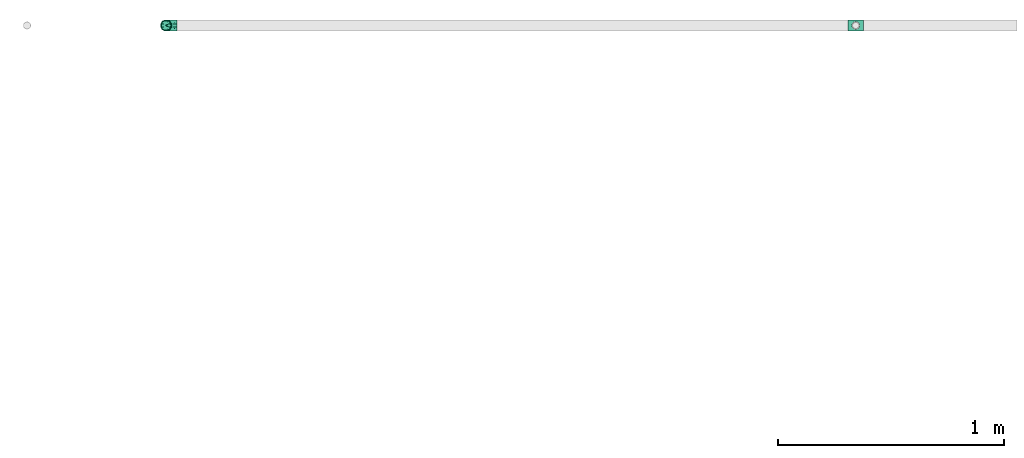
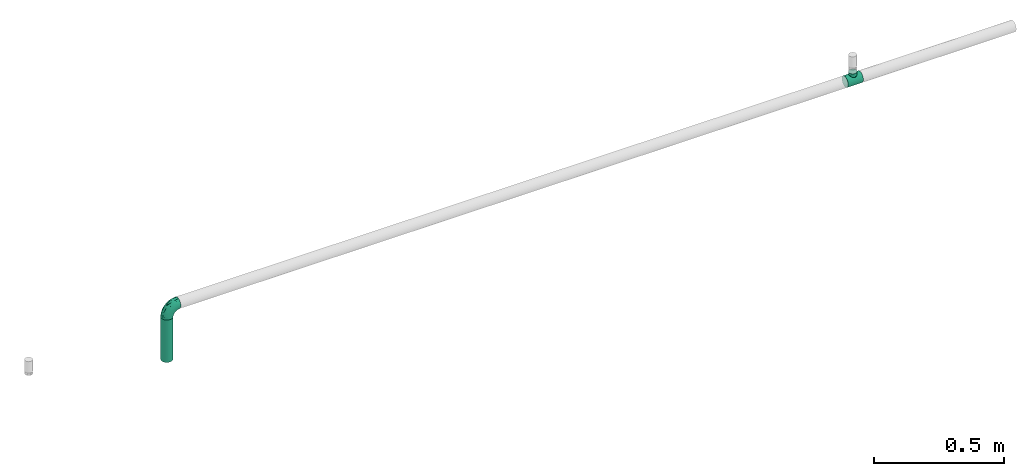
# One storey, part 3 of 14: 2 flow fittings, 1 flow segment.
"""IFC2X3 building model written with IfcOpenShell, lengths in millimetres."""

from ifc_helpers import new_model, entity, si_unit, converted_unit, derived_unit, direction, frame, origin_with_axes, origin_2d_with_axis, place, context, subcontext, project, spatial, hollow_circle, extrude, open_shell, surface_model, source, transform, mapped, type_object, element, save


model = new_model("IFC2X3")

# Units and contexts
model_context = context("Model", 3, precision=0.01, world=frame((0.0, 4.29681676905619e-09, 0.0)), true_north=direction((4.01073788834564e-13, 1.0)))
plan_context = context("Plan", 3, precision=0.01, world=frame((0.0, 4.29681676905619e-09, 0.0)), true_north=direction((4.01073788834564e-13, 1.0)))
body_context = subcontext(model_context, "Body", "Model", "MODEL_VIEW")
ifc_project = project(units=[converted_unit("PLANEANGLEUNIT", "DEGREE", entity("IfcPositiveLengthMeasure", 0.0174532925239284), si_unit("PLANEANGLEUNIT", "RADIAN"), dimensions=[0, 0, 0, 0, 0, 0, 0]), si_unit("AREAUNIT", "SQUARE_METRE"), si_unit("LENGTHUNIT", "METRE", prefix="MILLI"), si_unit("MASSUNIT", "GRAM", prefix="KILO"), si_unit("POWERUNIT", "WATT"), si_unit("PRESSUREUNIT", "PASCAL", prefix="KILO"), si_unit("FORCEUNIT", "NEWTON", prefix="KILO"), si_unit("ELECTRICVOLTAGEUNIT", "VOLT"), si_unit("ELECTRICCURRENTUNIT", "AMPERE"), si_unit("THERMODYNAMICTEMPERATUREUNIT", "DEGREE_CELSIUS"), si_unit("TIMEUNIT", "SECOND"), si_unit("VOLUMEUNIT", "CUBIC_METRE"), derived_unit("LINEARVELOCITYUNIT", [(si_unit("LENGTHUNIT", "METRE"), 1), (si_unit("TIMEUNIT", "SECOND"), -1)]), derived_unit("VOLUMETRICFLOWRATEUNIT", [(si_unit("VOLUMEUNIT", "CUBIC_METRE"), 1), (si_unit("TIMEUNIT", "SECOND"), -1)]), derived_unit("THERMALTRANSMITTANCEUNIT", [(si_unit("POWERUNIT", "WATT"), 1), (si_unit("THERMODYNAMICTEMPERATUREUNIT", "KELVIN"), -1), (si_unit("AREAUNIT", "SQUARE_METRE"), -1)]), derived_unit("SOUNDPRESSUREUNIT", [(si_unit("PRESSUREUNIT", "PASCAL"), 1)])], contexts=[model_context, plan_context])

# Site, building, storey
site_placement = place(None, frame((0.0, -4.29681676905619e-09, 0.0), z_axis=(0.0, 0.0, 1.0), x_axis=(1.0, 0.0, 0.0)))
site = spatial("IfcSite", under=ifc_project, at=site_placement, CompositionType="ELEMENT")
building_placement = place(site_placement, frame((0.0, 4.29681676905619e-09, 0.0), z_axis=(0.0, 0.0, 1.0), x_axis=(1.0, 0.0, 0.0)))
building = spatial("IfcBuilding", under=site, at=building_placement, Name="mc-building", CompositionType="ELEMENT")
storey_placement = place(building_placement, frame((0.0, 0.0, 204000.0), z_axis=(0.0, 0.0, 1.0), x_axis=(1.0, 0.0, 0.0)))
storey = spatial("IfcBuildingStorey", under=building, at=storey_placement, Name="Nivå D", CompositionType="ELEMENT", Elevation=204000.0)

# Flow fittings
pipe_fitting_type_1 = type_object("IfcPipeFittingType", Name="magi_pipe_fe_tee_centric_90_NOR", PredefinedType="JUNCTION")
shared_shape_1 = source(origin_with_axes(), body_context, "Body", "SurfaceModel", [
    surface_model("IfcShellBasedSurfaceModel", [(-33.8, 0.0, -24.2), (-33.8, -6.26342, -23.37541), (-33.8, 6.26342, -23.37541), (-33.8, 12.1, -20.95781), (-33.8, 17.11198, -17.11198), (-33.8, 20.95781, -12.1), (-33.8, -23.37541, -6.26342), (-33.8, 23.37541, -6.26342), (-33.8, -17.11198, -17.11198), (-33.8, -20.95781, -12.1), (-33.8, -12.1, -20.95781), (-33.8, -24.2, 0.0), (-33.8, -23.37541, 6.26342), (-33.8, 20.95781, 12.1), (-33.8, 23.37541, 6.26342), (-33.8, 24.2, 0.0), (-33.8, 12.1, 20.95781), (-33.8, 17.11198, 17.11198), (-33.8, -17.11198, 17.11198), (-33.8, 6.26342, 23.37541), (-33.8, -20.95781, 12.1), (-33.8, -12.1, 20.95781), (-33.8, -6.26342, 23.37541), (-33.8, 0.0, 24.2), (33.8, 6.26342, -23.37541), (33.8, -6.26342, -23.37541), (33.8, 0.0, -24.2), (33.8, 17.11198, -17.11198), (33.8, 12.1, -20.95781), (33.8, -23.37541, -6.26342), (33.8, 20.95781, -12.1), (33.8, 23.37541, -6.26342), (33.8, -17.11198, -17.11198), (33.8, -12.1, -20.95781), (33.8, -20.95781, -12.1), (33.8, -24.2, 0.0), (33.8, 24.2, 0.0), (33.8, 23.37541, 6.26342), (33.8, 20.95781, 12.1), (33.8, -23.37541, 6.26342), (33.8, -17.11198, 17.11198), (33.8, 12.1, 20.95781), (33.8, 17.11198, 17.11198), (33.8, 6.26342, 23.37541), (33.8, -20.95781, 12.1), (33.8, -12.1, 20.95781), (33.8, 0.0, 24.2), (33.8, -6.26342, 23.37541), (15.81824, -23.45734, 5.94922), (16.9, -24.2, 0.0), (12.87025, -21.57947, 10.95293), (33.8, -19.0349, 14.60599), (8.52813, -19.30697, 14.59044), (3.03527, -17.5853, 16.6252), (-3.04044, -17.58619, 16.62425), (-8.52961, -19.30762, 14.58958), (-33.8, -19.0349, 14.60599), (-16.9, -24.2, 0.0), (-15.81885, -23.45775, 5.9476), (-12.87368, -21.58151, 10.9489), (3.03527, -17.5853, -16.6252), (33.8, -19.0349, -14.60599), (8.52813, -19.30697, -14.59044), (-8.52961, -19.30762, -14.58958), (-33.8, -19.0349, -14.60599), (12.87025, -21.57947, -10.95293), (-3.04044, -17.58619, -16.62425), (15.81824, -23.45734, -5.94922), (-12.87368, -21.58151, -10.9489), (-15.81885, -23.45775, -5.9476), (4.37404, -36.3, -16.32415), (-16.9, -36.3, 0.0), (0.0, -36.3, -16.9), (14.63583, -36.3, -8.45), (8.45, -36.3, -14.63583), (16.32415, -36.3, -4.37404), (11.9501, -36.3, -11.9501), (-11.9501, -36.3, -11.9501), (-8.45, -36.3, -14.63583), (-4.37404, -36.3, -16.32415), (-14.63583, -36.3, -8.45), (-16.32415, -36.3, -4.37404), (16.9, -36.3, 0.0), (8.45, -36.3, 14.63583), (16.32415, -36.3, 4.37404), (14.63583, -36.3, 8.45), (-8.45, -36.3, 14.63583), (11.9501, -36.3, 11.9501), (4.37404, -36.3, 16.32415), (-16.32415, -36.3, 4.37404), (-11.9501, -36.3, 11.9501), (-14.63583, -36.3, 8.45), (0.0, -36.3, 16.9), (-4.37404, -36.3, 16.32415), (-16.35943, -23.82888, 2.9738), (16.35912, -23.82867, 2.97461), (-0.00259, -17.58575, 16.62472), (16.35912, -23.82867, -2.97461), (-0.00259, -17.58575, -16.62472), (-16.35943, -23.82888, -2.9738)], [open_shell([[[0, 1, 2]], [[3, 2, 4]], [[5, 2, 6]], [[4, 2, 5]], [[7, 5, 6]], [[8, 9, 10]], [[1, 10, 9]], [[1, 9, 2]], [[9, 6, 2]], [[6, 11, 7]], [[11, 12, 7]], [[13, 14, 15]], [[13, 15, 12]], [[16, 17, 18]], [[12, 17, 13]], [[19, 16, 18]], [[20, 18, 12]], [[18, 17, 12]], [[21, 22, 18]], [[23, 18, 22]], [[18, 23, 19]], [[7, 12, 15]], [[24, 25, 26]], [[27, 24, 28]], [[29, 24, 30]], [[30, 24, 27]], [[29, 30, 31]], [[25, 32, 33]], [[32, 25, 34]], [[24, 34, 25]], [[24, 29, 34]], [[31, 35, 29]], [[31, 36, 35]], [[36, 37, 38]], [[39, 36, 38]], [[40, 38, 41]], [[41, 38, 42]], [[40, 41, 43]], [[39, 40, 44]], [[39, 38, 40]], [[45, 46, 47]], [[46, 45, 40]], [[43, 46, 40]], [[36, 39, 35]], [[35, 39, 48]], [[48, 49, 35]], [[39, 50, 48]], [[51, 40, 52]], [[52, 50, 44]], [[53, 52, 40]], [[54, 53, 21]], [[44, 50, 39]], [[55, 18, 56]], [[57, 58, 11]], [[12, 11, 58]], [[58, 59, 12]], [[55, 54, 18]], [[55, 20, 59]], [[20, 55, 56]], [[59, 20, 12]], [[18, 54, 21]], [[52, 44, 51]], [[53, 40, 45]], [[23, 47, 46]], [[22, 45, 47]], [[19, 46, 43]], [[38, 37, 14]], [[17, 41, 42]], [[13, 42, 38]], [[43, 41, 16]], [[15, 37, 36]], [[21, 45, 22]], [[22, 47, 23]], [[19, 23, 46]], [[43, 16, 19]], [[16, 41, 17]], [[13, 17, 42]], [[14, 13, 38]], [[37, 15, 14]], [[45, 21, 53]], [[5, 31, 30]], [[7, 36, 31]], [[4, 30, 27]], [[26, 25, 1]], [[2, 28, 24]], [[0, 24, 26]], [[27, 28, 3]], [[10, 25, 33]], [[15, 36, 7]], [[7, 31, 5]], [[4, 5, 30]], [[27, 3, 4]], [[3, 28, 2]], [[0, 2, 24]], [[1, 0, 26]], [[25, 10, 1]], [[33, 60, 10]], [[61, 34, 62]], [[63, 9, 64]], [[62, 60, 32]], [[34, 65, 62]], [[66, 10, 60]], [[29, 35, 67]], [[67, 65, 29]], [[49, 67, 35]], [[29, 65, 34]], [[66, 63, 8]], [[62, 32, 61]], [[64, 8, 63]], [[63, 68, 9]], [[8, 10, 66]], [[68, 69, 6]], [[69, 11, 6]], [[11, 69, 57]], [[68, 6, 9]], [[60, 33, 32]], [[70, 71, 72]], [[73, 70, 74]], [[73, 75, 70]], [[73, 74, 76]], [[71, 70, 75]], [[72, 77, 78]], [[78, 79, 72]], [[80, 71, 81]], [[77, 72, 80]], [[71, 80, 72]], [[75, 82, 71]], [[83, 82, 84]], [[83, 84, 85]], [[86, 71, 83]], [[83, 85, 87]], [[86, 83, 88]], [[89, 90, 91]], [[90, 89, 86]], [[86, 92, 93]], [[89, 71, 86]], [[88, 92, 86]], [[83, 71, 82]], [[89, 94, 71]], [[59, 91, 90]], [[89, 91, 58]], [[90, 86, 55]], [[89, 58, 94]], [[94, 57, 71]], [[58, 91, 59]], [[95, 48, 84]], [[55, 93, 54]], [[55, 59, 90]], [[92, 53, 96]], [[55, 86, 93]], [[53, 92, 88]], [[83, 52, 88]], [[87, 85, 50]], [[87, 52, 83]], [[48, 85, 84]], [[87, 50, 52]], [[52, 53, 88]], [[82, 95, 84]], [[48, 50, 85]], [[95, 82, 49]], [[92, 54, 93]], [[96, 54, 92]], [[75, 97, 82]], [[65, 73, 76]], [[75, 73, 67]], [[76, 74, 62]], [[97, 49, 82]], [[67, 73, 65]], [[62, 70, 60]], [[62, 65, 76]], [[72, 66, 98]], [[62, 74, 70]], [[99, 71, 57]], [[99, 69, 81]], [[75, 67, 97]], [[79, 66, 72]], [[69, 80, 81]], [[77, 80, 68]], [[72, 60, 70]], [[79, 63, 66]], [[63, 79, 78]], [[78, 77, 63]], [[63, 77, 68]], [[68, 80, 69]], [[71, 99, 81]], [[98, 60, 72]]])]),
])
flow_fitting_1_placement = place(storey_placement, frame((601060.0, 576802.46783, 6055.58090999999), z_axis=(0.0, -1.0, 0.0), x_axis=(-1.0, 0.0, 0.0)))
element("IfcFlowFitting", 1, at=flow_fitting_1_placement, inside=storey, type_object=pipe_fitting_type_1, Name="magi_pipe_fe_tee_centric_90_NOR", context=body_context, shape_type="MappedRepresentation", body=[
    mapped(shared_shape_1, transform((0.0, 0.0, 0.0), scale=1.0)),
])
pipe_fitting_type_2 = type_object("IfcPipeFittingType", Name="magi_pipe_fe_elbow_short_001", PredefinedType="BEND")
shared_shape_2 = source(origin_with_axes(), body_context, "Body", "SurfaceModel", [
    surface_model("IfcShellBasedSurfaceModel", [(-48.4, 6.26342, -23.37541), (-48.4, 0.0, -24.2), (-48.4, 17.11198, -17.11198), (-48.4, 12.1, -20.95781), (-48.4, 23.37541, -6.26342), (-48.4, 20.95781, -12.1), (-48.4, -12.1, -20.95781), (-48.4, -17.11198, -17.11198), (-48.4, -20.95781, -12.1), (-48.4, -6.26342, -23.37541), (-48.4, -23.37541, -6.26342), (-48.4, -24.2, 0.0), (-48.4, -23.37541, 6.26342), (-48.4, 23.37541, 6.26342), (-48.4, 6.26342, 23.37541), (-48.4, 20.95781, 12.1), (-48.4, 17.11198, 17.11198), (-48.4, 12.1, 20.95781), (-48.4, -12.1, 20.95781), (-48.4, -20.95781, 12.1), (-48.4, -17.11198, 17.11198), (-48.4, -6.26342, 23.37541), (-48.4, 0.0, 24.2), (-48.4, 24.2, 0.0), (-17.11198, 48.4, -17.11198), (0.0, 48.4, -24.2), (-6.26342, 48.4, -23.37541), (-12.1, 48.4, -20.95781), (-20.95781, 48.4, -12.1), (-23.37541, 48.4, -6.26342), (12.1, 48.4, -20.95781), (20.95781, 48.4, -12.1), (17.11198, 48.4, -17.11198), (6.26342, 48.4, -23.37541), (23.37541, 48.4, -6.26342), (23.37541, 48.4, 6.26342), (24.2, 48.4, 0.0), (-23.37541, 48.4, 6.26342), (-6.26342, 48.4, 23.37541), (-17.11198, 48.4, 17.11198), (-20.95781, 48.4, 12.1), (-12.1, 48.4, 20.95781), (12.1, 48.4, 20.95781), (17.11198, 48.4, 17.11198), (20.95781, 48.4, 12.1), (0.0, 48.4, 24.2), (6.26342, 48.4, 23.37541), (-24.2, 48.4, 0.0), (-35.50368, -18.80076, 13.58523), (-31.77913, -13.9618, 18.03279), (-34.50859, -21.43683, 0.0), (-21.39243, -15.41147, 12.21413), (-32.16301, -21.12203, 7.54749), (21.12203, 32.16301, 7.54749), (17.07617, 18.95745, 6.20374), (18.67365, 20.61718, 0.0), (-23.65565, 38.62451, 10.51816), (-20.21592, 37.67665, 15.89859), (-35.56981, -9.15108, 21.77256), (-36.96985, -3.20584, 23.78612), (-33.88786, 3.70953, 24.15875), (-8.84062, -10.8048, 0.0), (-18.95745, -17.07617, 6.20374), (-20.61718, -18.67365, 0.0), (-18.69715, -5.87343, 20.10488), (-24.09336, -0.21717, 23.45593), (-2.08262, -4.09091, 10.90396), (-0.40561, 0.49936, 14.45569), (-8.22634, -5.79523, 14.90978), (-37.83027, 20.17367, 15.88169), (-8.41063, 23.79825, 24.15658), (-17.92529, 17.92529, 23.61199), (-14.40991, 10.5752, 24.07534), (-41.86919, 14.6551, 19.71874), (-9.03342, 41.7434, 22.66763), (-3.31671, 36.19978, 24.14056), (-38.63654, 23.65174, 10.51655), (-38.25939, 25.77657, 5.32075), (-30.0475, 30.0475, 9.04616), (-37.30448, 9.49113, 22.86036), (-6.31688, 16.20853, 23.76192), (-12.02449, 4.43954, 22.59792), (-2.47225, 13.07459, 22.23951), (-4.32281, 4.32281, 19.78555), (13.9618, 31.77913, 18.03279), (15.41147, 21.39243, 12.21413), (18.80076, 35.50367, 13.58523), (-25.72741, 16.42033, 22.38358), (-26.59277, 10.36599, 23.76692), (3.20584, 36.96985, 23.78612), (9.15107, 35.56981, 21.77256), (5.87343, 18.69715, 20.10488), (21.43683, 34.50859, 0.0), (-23.74657, 5.93004, 24.18967), (-22.40302, 25.55556, 19.88516), (-33.3245, 16.42738, 20.3789), (-25.47357, 39.04012, 5.19167), (-30.32947, 31.74105, 4.25904), (11.04589, 19.60124, 16.55181), (-27.44219, 36.3, 0.0), (-10.46605, 32.79159, 23.04712), (-13.80953, 25.05111, 23.26361), (-17.54489, 31.27863, 20.33941), (-19.27982, 23.42922, 22.01925), (-14.78447, 40.57947, 19.81913), (-19.60124, -11.04589, 16.55181), (-25.09785, 32.07921, 13.69695), (-25.5093, 27.02629, 17.14196), (-31.08127, 26.00324, 13.49448), (0.21717, 24.09336, 23.45593), (5.51075, 8.40547, 15.32867), (-11.48597, -10.80284, 11.35932), (1.43689, -3.14326, 6.54995), (7.34882, 4.31024, 8.4514), (7.50574, 2.51208, 3.62663), (12.46453, 10.09451, 5.71609), (12.1504, 12.55391, 10.15678), (-36.3, 27.44219, 0.0), (-6.52237, -9.62364, 7.02633), (2.93595, -2.93595, 0.0), (10.8048, 8.84062, 0.0), (-19.60124, -11.04589, -16.55181), (-31.77913, -13.9618, -18.03279), (-18.69715, -5.87343, -20.10488), (-21.39243, -15.41147, -12.21413), (-37.67665, 20.21591, -15.89859), (-40.57947, 14.78447, -19.81913), (-39.04012, 25.47357, -5.19167), (-32.16301, -21.12203, -7.54749), (-30.0475, 30.0475, -9.04616), (-38.62452, 23.65565, -10.51816), (-18.95745, -17.07617, -6.20374), (-23.42922, 19.27982, -22.01926), (-25.05111, 13.80953, -23.26361), (-31.27863, 17.54489, -20.33941), (-14.6551, 41.86919, -19.71874), (-20.17367, 37.83026, -15.88169), (9.15108, 35.56981, -21.77256), (5.87343, 18.69715, -20.10488), (0.21717, 24.09336, -23.45593), (-41.7434, 9.03342, -22.66763), (-35.50368, -18.80076, -13.58523), (-35.56981, -9.15108, -21.77256), (-16.42033, 25.72741, -22.38358), (-9.49113, 37.30447, -22.86036), (-10.36599, 26.59277, -23.76692), (-36.96985, -3.20584, -23.78612), (-23.79826, 8.41063, -24.15658), (-17.92529, 17.92529, -23.61199), (-10.5752, 14.40991, -24.07534), (-36.19978, 3.31671, -24.14056), (-25.77657, 38.25939, -5.32075), (-23.65174, 38.63654, -10.51655), (-32.79159, 10.46605, -23.04712), (-31.74105, 30.32946, -4.25904), (-5.93004, 23.74657, -24.18967), (-25.55556, 22.40302, -19.88516), (-16.42738, 33.3245, -20.3789), (3.20584, 36.96985, -23.78612), (-3.70953, 33.88785, -24.15875), (18.80076, 35.50367, -13.58523), (13.9618, 31.77913, -18.03279), (7.50574, 2.51208, -3.62663), (12.46453, 10.09451, -5.71609), (-16.20853, 6.31688, -23.76192), (-4.43954, 12.02449, -22.59792), (-13.07459, 2.47225, -22.23951), (15.41147, 21.39243, -12.21413), (21.12203, 32.16301, -7.54749), (17.07617, 18.95745, -6.20374), (-32.07921, 25.09785, -13.69695), (11.04589, 19.60124, -16.55181), (12.1504, 12.55391, -10.15678), (5.51075, 8.40547, -15.32867), (-27.02629, 25.5093, -17.14196), (-26.00324, 31.08127, -13.49448), (-24.09336, -0.21717, -23.45593), (-4.32281, 4.32281, -19.78555), (-8.22634, -5.79524, -14.90978), (-11.48597, -10.80284, -11.35931), (-0.40561, 0.49936, -14.45569), (-6.52237, -9.62364, -7.02632), (-2.08262, -4.09091, -10.90396), (7.34882, 4.31024, -8.4514), (1.43689, -3.14326, -6.54994)], [open_shell([[[0, 1, 2]], [[3, 0, 2]], [[4, 5, 2]], [[6, 2, 1]], [[4, 2, 6]], [[7, 8, 6]], [[1, 9, 6]], [[8, 10, 6]], [[6, 10, 4]], [[11, 12, 10]], [[13, 4, 10]], [[14, 13, 10]], [[15, 13, 16]], [[13, 14, 17]], [[16, 13, 17]], [[10, 18, 14]], [[19, 20, 12]], [[20, 10, 12]], [[21, 22, 18]], [[20, 18, 10]], [[18, 22, 14]], [[23, 4, 13]], [[24, 25, 26]], [[24, 26, 27]], [[24, 28, 29]], [[25, 24, 30]], [[30, 24, 29]], [[30, 31, 32]], [[30, 33, 25]], [[30, 34, 31]], [[29, 34, 30]], [[34, 35, 36]], [[34, 29, 37]], [[34, 37, 38]], [[39, 37, 40]], [[41, 38, 37]], [[41, 37, 39]], [[38, 42, 34]], [[35, 43, 44]], [[35, 34, 43]], [[42, 45, 46]], [[34, 42, 43]], [[38, 45, 42]], [[37, 29, 47]], [[20, 48, 49]], [[12, 11, 50]], [[51, 48, 52]], [[53, 54, 55]], [[48, 20, 19]], [[12, 52, 19]], [[40, 56, 57]], [[49, 18, 20]], [[49, 58, 18]], [[22, 59, 60]], [[61, 62, 63]], [[58, 64, 65]], [[66, 67, 68]], [[15, 16, 69]], [[70, 71, 72]], [[17, 73, 16]], [[21, 59, 22]], [[38, 74, 75]], [[22, 60, 14]], [[15, 69, 76]], [[16, 73, 69]], [[23, 13, 77]], [[13, 15, 76]], [[77, 76, 78]], [[14, 79, 17]], [[80, 81, 82]], [[68, 83, 64]], [[84, 43, 42]], [[85, 86, 84]], [[87, 79, 88]], [[18, 58, 21]], [[45, 89, 46]], [[53, 35, 44]], [[45, 38, 75]], [[84, 90, 91]], [[44, 86, 53]], [[92, 35, 53]], [[86, 44, 43]], [[90, 42, 46]], [[53, 55, 92]], [[88, 93, 72]], [[54, 53, 85]], [[87, 94, 95]], [[78, 96, 97]], [[98, 84, 91]], [[99, 96, 47]], [[79, 14, 60]], [[96, 78, 56]], [[62, 52, 63]], [[57, 39, 40]], [[100, 70, 75]], [[101, 102, 103]], [[12, 50, 52]], [[104, 41, 39]], [[74, 38, 41]], [[57, 102, 104]], [[105, 64, 49]], [[90, 84, 42]], [[40, 37, 56]], [[56, 106, 57]], [[102, 57, 107]], [[95, 107, 69]], [[76, 108, 78]], [[100, 101, 70]], [[89, 75, 109]], [[64, 58, 49]], [[63, 52, 50]], [[59, 58, 65]], [[105, 49, 51]], [[64, 83, 81]], [[89, 90, 46]], [[36, 35, 92]], [[109, 82, 91]], [[109, 91, 90]], [[91, 83, 110]], [[111, 68, 105]], [[66, 68, 111]], [[62, 51, 52]], [[66, 112, 113]], [[114, 115, 113]], [[98, 85, 84]], [[52, 48, 19]], [[49, 48, 51]], [[84, 86, 43]], [[53, 86, 85]], [[88, 79, 60]], [[73, 79, 95]], [[96, 56, 37]], [[78, 108, 106]], [[87, 103, 94]], [[100, 74, 104]], [[108, 69, 107]], [[78, 97, 77]], [[88, 72, 71]], [[109, 75, 70]], [[81, 72, 65]], [[70, 72, 80]], [[75, 89, 45]], [[90, 89, 109]], [[58, 59, 21]], [[60, 59, 65]], [[67, 83, 68]], [[110, 113, 116]], [[88, 60, 93]], [[87, 88, 71]], [[103, 87, 71]], [[79, 87, 95]], [[101, 103, 71]], [[94, 103, 102]], [[47, 96, 37]], [[96, 99, 97]], [[99, 117, 97]], [[97, 117, 77]], [[23, 77, 117]], [[13, 76, 77]], [[60, 65, 93]], [[65, 72, 93]], [[70, 101, 71]], [[102, 101, 100]], [[69, 108, 76]], [[106, 108, 107]], [[57, 106, 107]], [[78, 106, 56]], [[57, 104, 39]], [[100, 104, 102]], [[102, 107, 94]], [[95, 94, 107]], [[64, 81, 65]], [[82, 81, 83]], [[91, 82, 83]], [[80, 82, 109]], [[70, 80, 109]], [[81, 80, 72]], [[79, 73, 17]], [[69, 73, 95]], [[104, 74, 41]], [[75, 74, 100]], [[62, 61, 118]], [[111, 62, 118]], [[113, 115, 116]], [[119, 118, 61]], [[111, 105, 51]], [[113, 112, 114]], [[120, 55, 54]], [[68, 64, 105]], [[91, 110, 98]], [[116, 98, 110]], [[62, 111, 51]], [[66, 111, 118]], [[112, 66, 118]], [[67, 113, 110]], [[118, 119, 112]], [[114, 112, 119]], [[119, 120, 114]], [[115, 120, 54]], [[120, 115, 114]], [[116, 54, 85]], [[54, 116, 115]], [[116, 85, 98]], [[113, 67, 66]], [[83, 67, 110]], [[121, 122, 123]], [[122, 121, 124]], [[5, 125, 2]], [[2, 126, 3]], [[117, 127, 23]], [[50, 10, 128]], [[127, 129, 130]], [[128, 131, 63]], [[132, 133, 134]], [[24, 135, 136]], [[137, 138, 139]], [[3, 140, 0]], [[128, 8, 141]], [[142, 6, 9]], [[128, 63, 50]], [[5, 4, 130]], [[8, 7, 141]], [[143, 144, 145]], [[146, 9, 1]], [[147, 148, 149]], [[8, 128, 10]], [[124, 141, 122]], [[150, 1, 0]], [[151, 152, 129]], [[125, 134, 126]], [[153, 147, 150]], [[127, 154, 129]], [[145, 155, 149]], [[47, 29, 151]], [[143, 156, 157]], [[152, 29, 28]], [[25, 158, 159]], [[122, 7, 6]], [[24, 27, 135]], [[144, 27, 26]], [[32, 160, 161]], [[25, 33, 158]], [[120, 162, 163]], [[130, 125, 5]], [[24, 136, 28]], [[0, 140, 150]], [[30, 161, 137]], [[142, 122, 6]], [[25, 159, 26]], [[164, 165, 166]], [[31, 160, 32]], [[161, 30, 32]], [[167, 160, 168]], [[131, 128, 124]], [[36, 92, 34]], [[34, 92, 168]], [[169, 168, 55]], [[34, 168, 31]], [[144, 26, 159]], [[130, 170, 125]], [[171, 172, 173]], [[136, 152, 28]], [[30, 137, 33]], [[122, 142, 123]], [[134, 125, 174]], [[157, 174, 136]], [[152, 175, 129]], [[153, 133, 147]], [[146, 150, 176]], [[146, 142, 9]], [[11, 10, 50]], [[176, 166, 123]], [[176, 123, 142]], [[123, 177, 178]], [[138, 137, 161]], [[55, 168, 92]], [[158, 137, 139]], [[171, 161, 167]], [[138, 177, 165]], [[177, 138, 173]], [[124, 121, 179]], [[173, 180, 177]], [[61, 131, 181]], [[182, 181, 179]], [[169, 167, 168]], [[122, 141, 7]], [[128, 141, 124]], [[168, 160, 31]], [[161, 160, 167]], [[145, 144, 159]], [[135, 144, 157]], [[127, 130, 4]], [[129, 175, 170]], [[143, 132, 156]], [[153, 140, 126]], [[175, 136, 174]], [[129, 154, 151]], [[145, 149, 148]], [[176, 150, 147]], [[165, 149, 139]], [[147, 149, 164]], [[150, 146, 1]], [[142, 146, 176]], [[137, 158, 33]], [[159, 158, 139]], [[171, 138, 161]], [[183, 182, 180]], [[145, 159, 155]], [[143, 145, 148]], [[132, 143, 148]], [[144, 143, 157]], [[133, 132, 148]], [[156, 132, 134]], [[23, 127, 4]], [[127, 117, 154]], [[117, 99, 154]], [[154, 99, 151]], [[47, 151, 99]], [[29, 152, 151]], [[159, 139, 155]], [[139, 149, 155]], [[147, 133, 148]], [[134, 133, 153]], [[136, 175, 152]], [[170, 175, 174]], [[125, 170, 174]], [[129, 170, 130]], [[125, 126, 2]], [[153, 126, 134]], [[134, 174, 156]], [[157, 156, 174]], [[138, 165, 139]], [[166, 165, 177]], [[123, 166, 177]], [[164, 166, 176]], [[147, 164, 176]], [[165, 164, 149]], [[144, 135, 27]], [[136, 135, 157]], [[126, 140, 3]], [[150, 140, 153]], [[179, 131, 124]], [[181, 119, 61]], [[63, 131, 61]], [[169, 163, 172]], [[169, 55, 120]], [[123, 178, 121]], [[179, 121, 178]], [[172, 171, 167]], [[173, 138, 171]], [[182, 179, 178]], [[131, 179, 181]], [[180, 182, 178]], [[163, 162, 183]], [[120, 119, 162]], [[172, 163, 183]], [[120, 163, 169]], [[173, 172, 183]], [[169, 172, 167]], [[177, 180, 178]], [[183, 180, 173]], [[184, 181, 182]], [[184, 182, 183]], [[119, 181, 184]], [[119, 184, 162]], [[162, 184, 183]]])]),
])
flow_fitting_2_placement = place(storey_placement, frame((598013.8, 576802.46783, 6055.58090999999), z_axis=(0.0, 1.0, 0.0), x_axis=(0.0, 0.0, 1.0)))
element("IfcFlowFitting", 2, at=flow_fitting_2_placement, inside=storey, type_object=pipe_fitting_type_2, Name="magi_pipe_fe_elbow_short_001", context=body_context, shape_type="MappedRepresentation", body=[
    mapped(shared_shape_2, transform((0.0, 0.0, 0.0), scale=1.0)),
])

# Flow segment
pipe_segment_type = type_object("IfcPipeSegmentType", Name="Stålrør normaltykke", PredefinedType="RIGIDSEGMENT")
shared_shape_3 = source(origin_with_axes(), body_context, "Body", "SweptSolid", [
    extrude(hollow_circle(Radius=24.1, WallThickness=2.0, at=origin_2d_with_axis()), frame((0.0, 0.0, 0.0), z_axis=(1.0, 0.0, 0.0), x_axis=(0.0, 1.0, 0.0)), (0.0, 0.0, 1.0), 198.8),
])
flow_segment_placement = place(storey_placement, frame((598013.8, 576802.46783, 5808.39999999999), z_axis=(0.0, -1.0, 0.0), x_axis=(0.0, 0.0, 1.0)))
element("IfcFlowSegment", 3, at=flow_segment_placement, inside=storey, type_object=pipe_segment_type, Name="Stålrør normaltykke", context=body_context, shape_type="MappedRepresentation", body=[
    mapped(shared_shape_3, transform((0.0, 0.0, 0.0), scale=1.0)),
])

save(model, "model.ifc")
